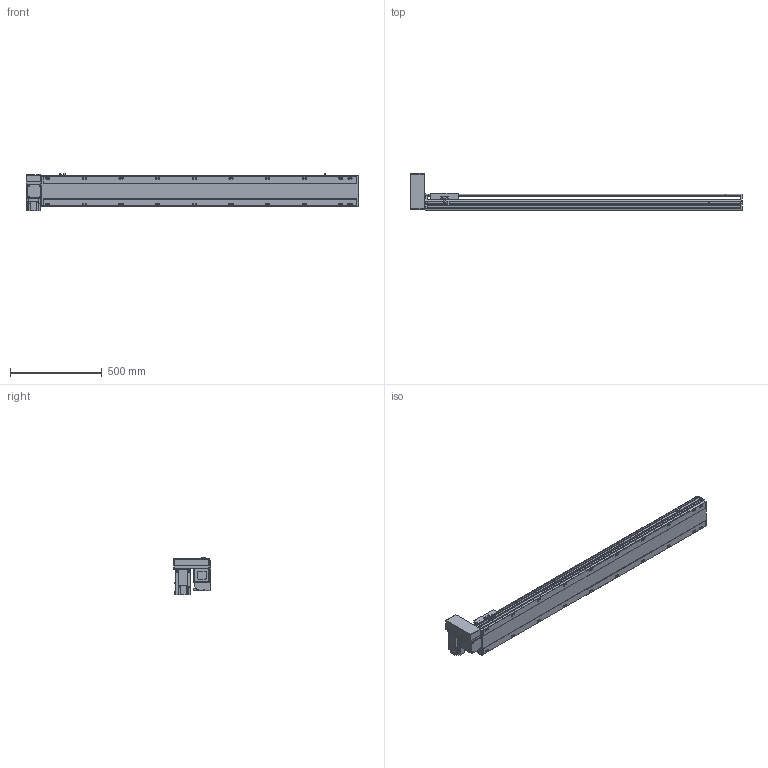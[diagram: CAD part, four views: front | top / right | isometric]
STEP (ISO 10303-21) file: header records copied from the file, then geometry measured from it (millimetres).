
FILE_DESCRIPTION( ( 'STEP AP214' ), '1' );
FILE_NAME( 'x:/temp/worker_5/temp/exporttempdir_3988_129_wOjDe/format_0/PBS170-P40-S1450-RU-T75-C1-N(0).stp', '2022-06-08T05:58:42', ( 'License CC BY-ND 4.0' ), ( 'CADENAS' ), ' ', 'PARTsolutions', ' ' );
FILE_SCHEMA( ( 'AUTOMOTIVE_DESIGN { 1 0 10303 214 1 1 1 1 }' ) );
Length unit declared in the file: millimetre
Products named in the file (7): PBS170-P40-S1450-RU-T75-C1-N(0); _PBS170-S1450()_body; _PBS170T-RU_motors; _T75-p1; _PBS170_sliser; _PBS170_plant; _PBS170_sensor
Assembly tree (8 placements, depth 2):
  PBS170-P40-S1450-RU-T75-C1-N(0)
    _PBS170-S1450()_body
    _PBS170T-RU_motors
    _T75-p1
    _PBS170_sliser
    _PBS170_plant
    _PBS170_sensor  x3
Bounding box: 1813 x 206 x 205.3 mm (x, y, z)
Volume: 14194067.4 mm3; surface area: 1828093.7 mm2
Topology: 8 solids, 8 shells, 1114 faces, 2955 edges, 1926 vertices
Faces by surface type: plane 699, cylinder 355, cone 50, sphere 8, torus 2
Full cylindrical faces by diameter (mm): 3.242 x4, 4 x2, 4.4 x4, 4.5 x6, 4.917 x4, 6 x9, 6.647 x28, 7 x2, 7.5 x4, 8 x8, 8.5 x20, 10 x4, 10.5 x20, 11 x2, 30 x2, 40 x1, 70 x1
Entity records: 41024 total; most frequent: CARTESIAN_POINT 6557, DIRECTION 5440, ORIENTED_EDGE 5148, EDGE_CURVE 2574, AXIS2_PLACEMENT_3D 1897, VERTEX_POINT 1778, LINE 1646, VECTOR 1646
